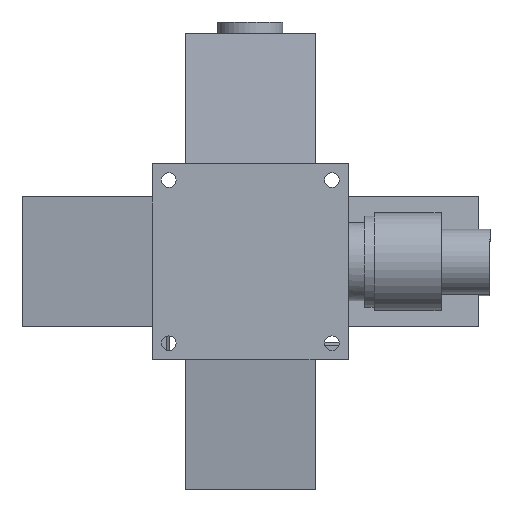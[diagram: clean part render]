
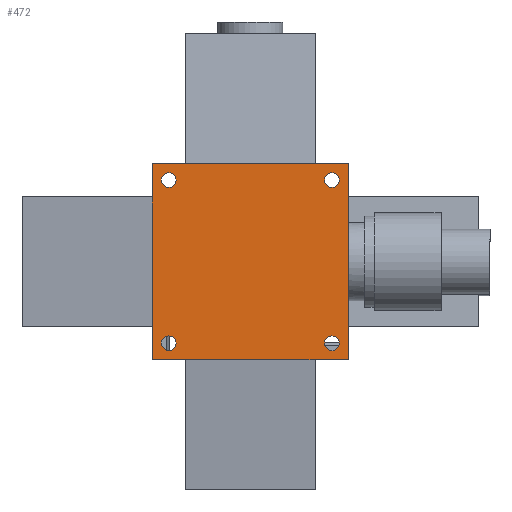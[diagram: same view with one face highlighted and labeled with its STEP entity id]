
A CAD part, front view. The second image highlights one B-rep face of the part: STEP entity #472.
In plain terms, the highlighted planar face has unit normal (0, -1, 0).
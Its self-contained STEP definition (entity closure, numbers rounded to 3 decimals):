
#461 = EDGE_CURVE ( 'NONE', #462, #463, #8296, .T. ) ;
#462 = VERTEX_POINT ( 'NONE', #8292 ) ;
#463 = VERTEX_POINT ( 'NONE', #8291 ) ;
#472 = ADVANCED_FACE ( 'NONE', ( #8209, #8208, #8207, #8206, #8205 ), #8204, .F. ) ;
#473 = EDGE_LOOP ( 'NONE', ( #474, #611 ) ) ;
#474 = ORIENTED_EDGE ( 'NONE', *, *, #746, .T. ) ;
#555 = EDGE_CURVE ( 'NONE', #463, #556, #8088, .T. ) ;
#556 = VERTEX_POINT ( 'NONE', #8344 ) ;
#557 = ORIENTED_EDGE ( 'NONE', *, *, #558, .T. ) ;
#558 = EDGE_CURVE ( 'NONE', #556, #559, #8343, .T. ) ;
#559 = VERTEX_POINT ( 'NONE', #8339 ) ;
#560 = ORIENTED_EDGE ( 'NONE', *, *, #561, .T. ) ;
#561 = EDGE_CURVE ( 'NONE', #559, #462, #8338, .T. ) ;
#562 = ORIENTED_EDGE ( 'NONE', *, *, #461, .T. ) ;
#575 = EDGE_CURVE ( 'NONE', #598, #597, #8321, .T. ) ;
#596 = EDGE_CURVE ( 'NONE', #597, #598, #8437, .T. ) ;
#597 = VERTEX_POINT ( 'NONE', #8432 ) ;
#598 = VERTEX_POINT ( 'NONE', #8431 ) ;
#606 = EDGE_LOOP ( 'NONE', ( #607, #608 ) ) ;
#607 = ORIENTED_EDGE ( 'NONE', *, *, #575, .T. ) ;
#608 = ORIENTED_EDGE ( 'NONE', *, *, #596, .T. ) ;
#609 = EDGE_LOOP ( 'NONE', ( #610, #557, #560, #562 ) ) ;
#610 = ORIENTED_EDGE ( 'NONE', *, *, #555, .T. ) ;
#611 = ORIENTED_EDGE ( 'NONE', *, *, #625, .T. ) ;
#612 = EDGE_LOOP ( 'NONE', ( #613, #614 ) ) ;
#613 = ORIENTED_EDGE ( 'NONE', *, *, #643, .T. ) ;
#614 = ORIENTED_EDGE ( 'NONE', *, *, #731, .T. ) ;
#615 = EDGE_LOOP ( 'NONE', ( #616, #617 ) ) ;
#616 = ORIENTED_EDGE ( 'NONE', *, *, #636, .T. ) ;
#617 = ORIENTED_EDGE ( 'NONE', *, *, #652, .T. ) ;
#625 = EDGE_CURVE ( 'NONE', #626, #627, #8599, .T. ) ;
#626 = VERTEX_POINT ( 'NONE', #8595 ) ;
#627 = VERTEX_POINT ( 'NONE', #8594 ) ;
#636 = EDGE_CURVE ( 'NONE', #654, #653, #8581, .T. ) ;
#643 = EDGE_CURVE ( 'NONE', #733, #732, #8569, .T. ) ;
#652 = EDGE_CURVE ( 'NONE', #653, #654, #8351, .T. ) ;
#653 = VERTEX_POINT ( 'NONE', #8402 ) ;
#654 = VERTEX_POINT ( 'NONE', #8401 ) ;
#731 = EDGE_CURVE ( 'NONE', #732, #733, #8714, .T. ) ;
#732 = VERTEX_POINT ( 'NONE', #8710 ) ;
#733 = VERTEX_POINT ( 'NONE', #8709 ) ;
#746 = EDGE_CURVE ( 'NONE', #627, #626, #8633, .T. ) ;
#8087 = CARTESIAN_POINT ( 'NONE',  ( 30., 0., -30. ) ) ;
#8088 = LINE ( 'NONE', #8087, #8346 ) ;
#8200 = DIRECTION ( 'NONE',  ( 0., 0., 1. ) ) ;
#8201 = DIRECTION ( 'NONE',  ( 0., 1., 0. ) ) ;
#8202 = CARTESIAN_POINT ( 'NONE',  ( 30., 0., -30. ) ) ;
#8203 = AXIS2_PLACEMENT_3D ( 'NONE', #8202, #8201, #8200 ) ;
#8204 = PLANE ( 'NONE',  #8203 ) ;
#8205 = FACE_OUTER_BOUND ( 'NONE', #609, .T. ) ;
#8206 = FACE_BOUND ( 'NONE', #606, .T. ) ;
#8207 = FACE_BOUND ( 'NONE', #615, .T. ) ;
#8208 = FACE_BOUND ( 'NONE', #612, .T. ) ;
#8209 = FACE_BOUND ( 'NONE', #473, .T. ) ;
#8282 = DIRECTION ( 'NONE',  ( 0., 0., 1. ) ) ;
#8283 = DIRECTION ( 'NONE',  ( 0., 1., 0. ) ) ;
#8284 = CARTESIAN_POINT ( 'NONE',  ( -25., 0., 25. ) ) ;
#8285 = AXIS2_PLACEMENT_3D ( 'NONE', #8284, #8283, #8282 ) ;
#8291 = CARTESIAN_POINT ( 'NONE',  ( -30., 0., -30. ) ) ;
#8292 = CARTESIAN_POINT ( 'NONE',  ( -30., 0., 30. ) ) ;
#8293 = DIRECTION ( 'NONE',  ( 0., 0., -1. ) ) ;
#8294 = VECTOR ( 'NONE', #8293, 1000. ) ;
#8295 = CARTESIAN_POINT ( 'NONE',  ( -30., 0., -30. ) ) ;
#8296 = LINE ( 'NONE', #8295, #8294 ) ;
#8321 = CIRCLE ( 'NONE', #8285, 2.25 ) ;
#8335 = DIRECTION ( 'NONE',  ( -1., 0., 0. ) ) ;
#8336 = VECTOR ( 'NONE', #8335, 1000. ) ;
#8337 = CARTESIAN_POINT ( 'NONE',  ( 30., 0., 30. ) ) ;
#8338 = LINE ( 'NONE', #8337, #8336 ) ;
#8339 = CARTESIAN_POINT ( 'NONE',  ( 30., 0., 30. ) ) ;
#8340 = DIRECTION ( 'NONE',  ( 0., 0., 1. ) ) ;
#8341 = VECTOR ( 'NONE', #8340, 1000. ) ;
#8342 = CARTESIAN_POINT ( 'NONE',  ( 30., 0., -30. ) ) ;
#8343 = LINE ( 'NONE', #8342, #8341 ) ;
#8344 = CARTESIAN_POINT ( 'NONE',  ( 30., 0., -30. ) ) ;
#8345 = DIRECTION ( 'NONE',  ( 1., 0., 0. ) ) ;
#8346 = VECTOR ( 'NONE', #8345, 1000. ) ;
#8351 = CIRCLE ( 'NONE', #8406, 2.25 ) ;
#8366 = DIRECTION ( 'NONE',  ( 0., 0., 1. ) ) ;
#8367 = DIRECTION ( 'NONE',  ( 0., 1., 0. ) ) ;
#8368 = AXIS2_PLACEMENT_3D ( 'NONE', #8574, #8367, #8366 ) ;
#8401 = CARTESIAN_POINT ( 'NONE',  ( -25., 0., -22.75 ) ) ;
#8402 = CARTESIAN_POINT ( 'NONE',  ( -25., 0., -27.25 ) ) ;
#8403 = DIRECTION ( 'NONE',  ( 0., 0., 1. ) ) ;
#8404 = DIRECTION ( 'NONE',  ( 0., 1., 0. ) ) ;
#8405 = CARTESIAN_POINT ( 'NONE',  ( -25., 0., -25. ) ) ;
#8406 = AXIS2_PLACEMENT_3D ( 'NONE', #8405, #8404, #8403 ) ;
#8409 = CARTESIAN_POINT ( 'NONE',  ( 25., 0., 25. ) ) ;
#8431 = CARTESIAN_POINT ( 'NONE',  ( -25., 0., 27.25 ) ) ;
#8432 = CARTESIAN_POINT ( 'NONE',  ( -25., 0., 22.75 ) ) ;
#8433 = DIRECTION ( 'NONE',  ( 0., 0., 1. ) ) ;
#8434 = DIRECTION ( 'NONE',  ( 0., 1., 0. ) ) ;
#8435 = CARTESIAN_POINT ( 'NONE',  ( -25., 0., 25. ) ) ;
#8436 = AXIS2_PLACEMENT_3D ( 'NONE', #8435, #8434, #8433 ) ;
#8437 = CIRCLE ( 'NONE', #8436, 2.25 ) ;
#8569 = CIRCLE ( 'NONE', #8368, 2.25 ) ;
#8574 = CARTESIAN_POINT ( 'NONE',  ( 25., 0., -25. ) ) ;
#8577 = DIRECTION ( 'NONE',  ( 0., 0., 1. ) ) ;
#8578 = DIRECTION ( 'NONE',  ( 0., 1., 0. ) ) ;
#8579 = CARTESIAN_POINT ( 'NONE',  ( -25., 0., -25. ) ) ;
#8580 = AXIS2_PLACEMENT_3D ( 'NONE', #8579, #8578, #8577 ) ;
#8581 = CIRCLE ( 'NONE', #8580, 2.25 ) ;
#8594 = CARTESIAN_POINT ( 'NONE',  ( 25., 0., 27.25 ) ) ;
#8595 = CARTESIAN_POINT ( 'NONE',  ( 25., 0., 22.75 ) ) ;
#8596 = DIRECTION ( 'NONE',  ( 0., 0., 1. ) ) ;
#8597 = DIRECTION ( 'NONE',  ( 0., 1., 0. ) ) ;
#8598 = AXIS2_PLACEMENT_3D ( 'NONE', #8409, #8597, #8596 ) ;
#8599 = CIRCLE ( 'NONE', #8598, 2.25 ) ;
#8625 = DIRECTION ( 'NONE',  ( 0., 0., 1. ) ) ;
#8626 = DIRECTION ( 'NONE',  ( 0., 1., 0. ) ) ;
#8627 = CARTESIAN_POINT ( 'NONE',  ( 25., 0., 25. ) ) ;
#8628 = AXIS2_PLACEMENT_3D ( 'NONE', #8627, #8626, #8625 ) ;
#8633 = CIRCLE ( 'NONE', #8628, 2.25 ) ;
#8709 = CARTESIAN_POINT ( 'NONE',  ( 25., 0., -22.75 ) ) ;
#8710 = CARTESIAN_POINT ( 'NONE',  ( 25., 0., -27.25 ) ) ;
#8711 = DIRECTION ( 'NONE',  ( 0., 0., 1. ) ) ;
#8712 = DIRECTION ( 'NONE',  ( 0., 1., 0. ) ) ;
#8713 = AXIS2_PLACEMENT_3D ( 'NONE', #8722, #8712, #8711 ) ;
#8714 = CIRCLE ( 'NONE', #8713, 2.25 ) ;
#8722 = CARTESIAN_POINT ( 'NONE',  ( 25., 0., -25. ) ) ;
